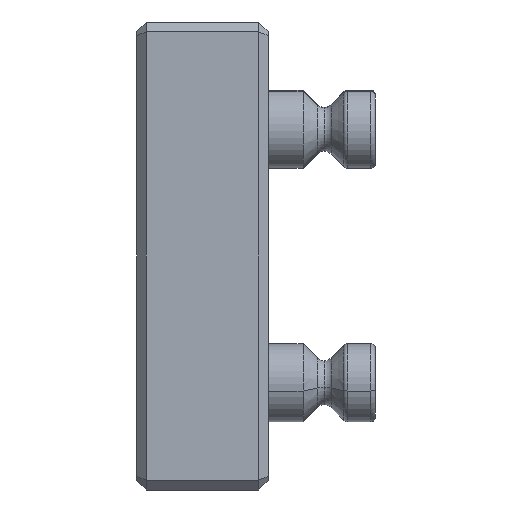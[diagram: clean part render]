
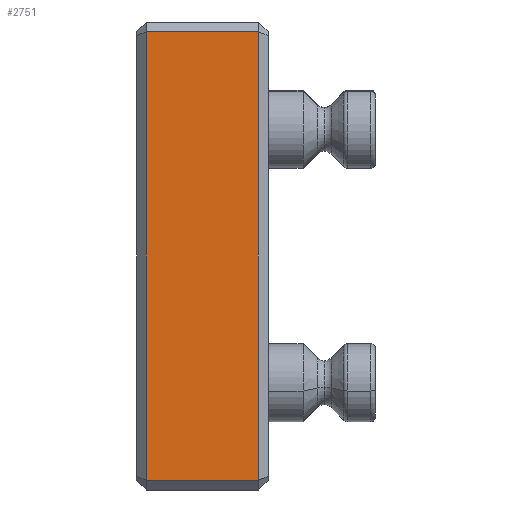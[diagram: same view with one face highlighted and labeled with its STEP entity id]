
A CAD part, left-side view. The second image highlights one B-rep face of the part: STEP entity #2751.
In plain terms, the highlighted planar face has unit normal (-1, 0, 0).
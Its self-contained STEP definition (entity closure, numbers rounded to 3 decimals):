
#641 = VECTOR ( 'NONE', #2361, 1000. ) ;
#643 = VECTOR ( 'NONE', #2358, 1000. ) ;
#646 = VECTOR ( 'NONE', #2355, 1000. ) ;
#1047 = VECTOR ( 'NONE', #1308, 1000. ) ;
#1132 = AXIS2_PLACEMENT_3D ( 'NONE', #3198, #3209, #3210 ) ;
#1280 = LINE ( 'NONE', #1307, #1047 ) ;
#1307 = CARTESIAN_POINT ( 'NONE',  ( -48., 2., 46. ) ) ;
#1308 = DIRECTION ( 'NONE',  ( 0., 0., 1. ) ) ;
#1398 = CARTESIAN_POINT ( 'NONE',  ( -48., 2., -46. ) ) ;
#1505 = CARTESIAN_POINT ( 'NONE',  ( -48., 25., -46. ) ) ;
#1521 = CARTESIAN_POINT ( 'NONE',  ( -48., 25., 46. ) ) ;
#1614 = CARTESIAN_POINT ( 'NONE',  ( -48., 2., 46. ) ) ;
#1791 = EDGE_LOOP ( 'NONE', ( #3961, #3919, #3965, #3894 ) ) ;
#2325 = CARTESIAN_POINT ( 'NONE',  ( -48., 27., 46. ) ) ;
#2330 = LINE ( 'NONE', #2325, #646 ) ;
#2355 = DIRECTION ( 'NONE',  ( 0., 1., 0. ) ) ;
#2356 = LINE ( 'NONE', #2357, #643 ) ;
#2357 = CARTESIAN_POINT ( 'NONE',  ( -48., 25., 48. ) ) ;
#2358 = DIRECTION ( 'NONE',  ( 0., 0., -1. ) ) ;
#2359 = LINE ( 'NONE', #2360, #641 ) ;
#2360 = CARTESIAN_POINT ( 'NONE',  ( -48., 27., -46. ) ) ;
#2361 = DIRECTION ( 'NONE',  ( 0., -1., 0. ) ) ;
#2751 = ADVANCED_FACE ( 'NONE', ( #3205 ), #3206, .F. ) ;
#2806 = EDGE_CURVE ( 'NONE', #4450, #4717, #1280, .T. ) ;
#3198 = CARTESIAN_POINT ( 'NONE',  ( -48., 27., 48. ) ) ;
#3205 = FACE_OUTER_BOUND ( 'NONE', #1791, .T. ) ;
#3206 = PLANE ( 'NONE',  #1132 ) ;
#3209 = DIRECTION ( 'NONE',  ( 1., 0., 0. ) ) ;
#3210 = DIRECTION ( 'NONE',  ( 0., -1., 0. ) ) ;
#3589 = EDGE_CURVE ( 'NONE', #4717, #4624, #2330, .T. ) ;
#3590 = EDGE_CURVE ( 'NONE', #4624, #4608, #2356, .T. ) ;
#3591 = EDGE_CURVE ( 'NONE', #4608, #4450, #2359, .T. ) ;
#3894 = ORIENTED_EDGE ( 'NONE', *, *, #2806, .T. ) ;
#3919 = ORIENTED_EDGE ( 'NONE', *, *, #3590, .T. ) ;
#3961 = ORIENTED_EDGE ( 'NONE', *, *, #3589, .T. ) ;
#3965 = ORIENTED_EDGE ( 'NONE', *, *, #3591, .T. ) ;
#4450 = VERTEX_POINT ( 'NONE', #1398 ) ;
#4608 = VERTEX_POINT ( 'NONE', #1505 ) ;
#4624 = VERTEX_POINT ( 'NONE', #1521 ) ;
#4717 = VERTEX_POINT ( 'NONE', #1614 ) ;
